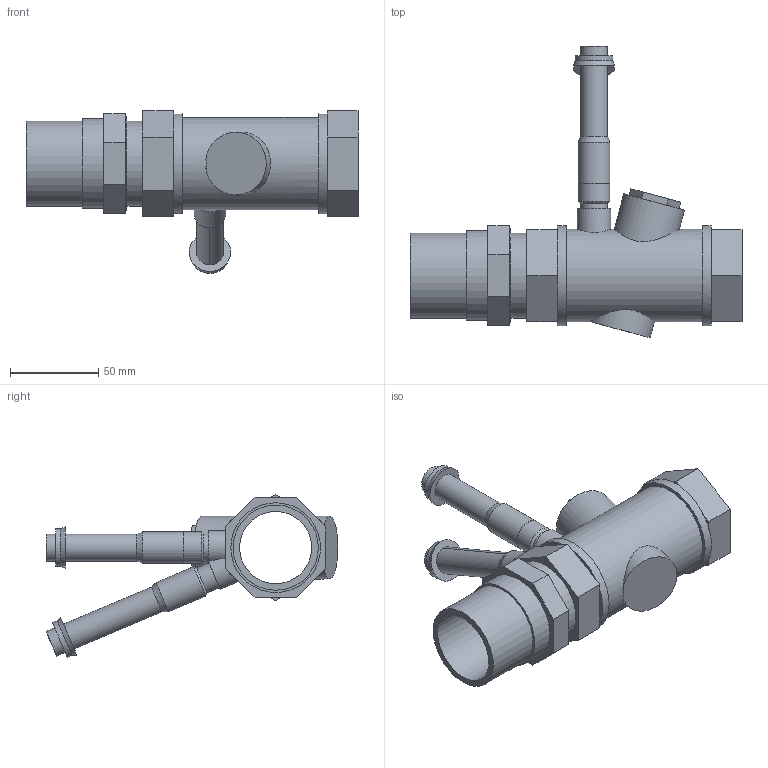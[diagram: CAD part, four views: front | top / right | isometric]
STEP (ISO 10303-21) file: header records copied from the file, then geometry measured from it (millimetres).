
FILE_DESCRIPTION(/* description */ ('VIC VALVE AUTO BALANCING SERIES 76K (SWTxFPT)','CAx-IF Rec.Pracs.---Representation and Presentation of Product Manufacturing Information (PMI)---4.0---2014-10-13'),/* implementation_level */ '2;1');
FILE_NAME(/* name */ 'C:\Users\kkamble\Desktop\KIRAN\2022\76B & 76K\76K\STEP\Victaulic_IPS_Valve Auto Balancing_Series 76K (SWTxFPT)\Victaulic_IPS_Valve Auto Balancing_Series 76K (SWTxFPT)_1.5 (40).stp',/* time_stamp */ '2022-03-04T13:34:19+05:00',/* author */ ('kkamble'),/* organization */ ('Victaulic'),/* preprocessor_version */ 'ST-DEVELOPER v17.2',/* originating_system */ 'Autodesk Inventor 2019',/* authorisation */ '');
FILE_SCHEMA (('AP242_MANAGED_MODEL_BASED_3D_ENGINEERING_MIM_LF { 1 0 10303 442 1 1 4 }'));
Length unit declared in the file: inch
Products named in the file (1): 76K-01.5
Bounding box: 187.96 x 165.14 x 92.17 mm (x, y, z)
Volume: 179076.7 mm3; surface area: 78474.4 mm2
Topology: 2 solids, 2 shells, 110 faces, 272 edges, 178 vertices
Faces by surface type: plane 72, cylinder 26, cone 12
Full cylindrical faces by diameter (mm): 15.24 x4, 17.78 x1, 18.034 x2, 21.336 x1, 35.56 x1, 40.894 x1, 48.26 x3, 50.8 x1, 52.324 x1, 56.515 x2
Entity records: 3715 total; most frequent: CARTESIAN_POINT 766, DIRECTION 633, ORIENTED_EDGE 544, EDGE_CURVE 272, AXIS2_PLACEMENT_3D 248, VERTEX_POINT 178, LINE 137, VECTOR 137
